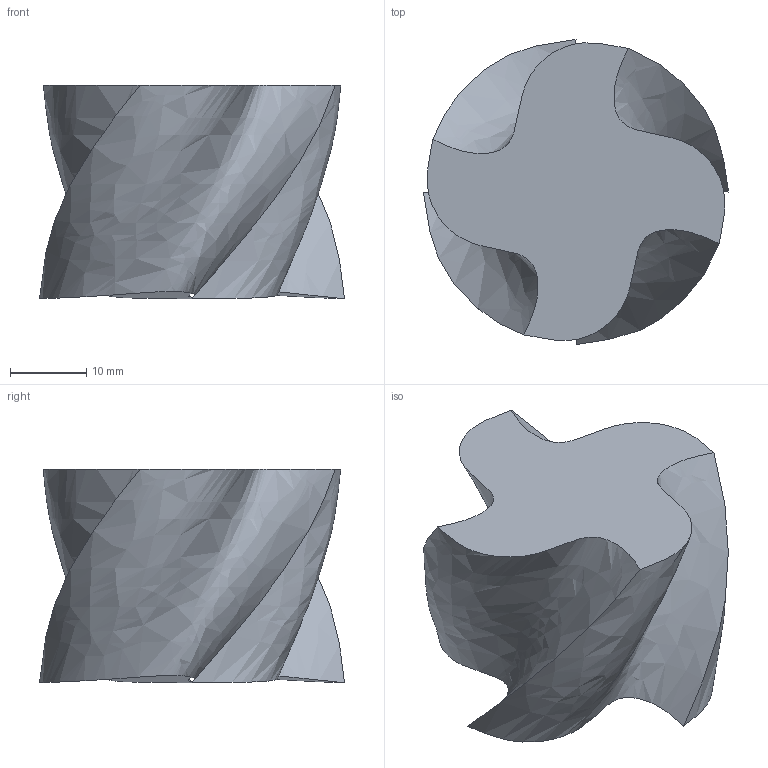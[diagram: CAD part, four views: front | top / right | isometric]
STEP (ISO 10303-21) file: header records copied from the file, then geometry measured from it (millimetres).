
FILE_DESCRIPTION (( 'STEP AP203' ), '1' );
FILE_NAME ('FRAISE 2T ARS 40 MM.STEP', '2009-12-04T11:21:22', ( 'Famille Couzi' ), ( '' ), 'SwSTEP 2.0', 'SolidWorks 2005143', '' );
FILE_SCHEMA (( 'CONFIG_CONTROL_DESIGN' ));
Length unit declared in the file: millimetre
Products named in the file (1): FRAISE 2T ARS 40 MM
Bounding box: 40 x 40 x 28 mm (x, y, z)
Volume: 20621 mm3; surface area: 6001.6 mm2
Topology: 1 solids, 1 shells, 11 faces, 24 edges, 16 vertices
Faces by surface type: bspline 4, plane 3, cone 2, cylinder 2
Entity records: 779 total; most frequent: CARTESIAN_POINT 490, ORIENTED_EDGE 48, DIRECTION 32, EDGE_CURVE 24, VERTEX_POINT 16, B_SPLINE_CURVE_WITH_KNOTS 14, AXIS2_PLACEMENT_3D 14, EDGE_LOOP 12
